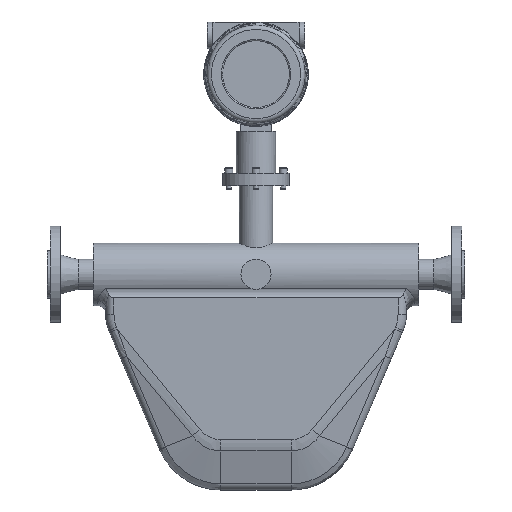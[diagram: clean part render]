
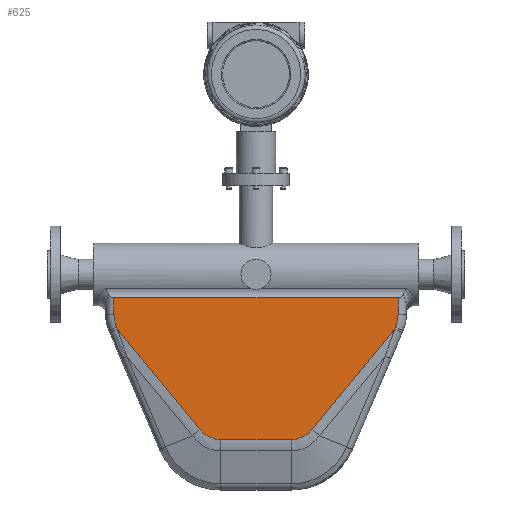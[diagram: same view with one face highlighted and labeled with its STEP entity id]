
A CAD part, top view. The second image highlights one B-rep face of the part: STEP entity #625.
In plain terms, the highlighted planar face has unit normal (0, 0, 1).
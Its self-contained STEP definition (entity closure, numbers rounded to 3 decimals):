
#625=ADVANCED_FACE('',(#4400),#4402,.T.);
#4400=FACE_BOUND('',#4401,.T.);
#4401=EDGE_LOOP('',(#8146,#8147,#8148,#8149,#8150,#8151,#8152,#8153,#8154,#8155,
#8156,#8157));
#4402=PLANE('',#4403);
#4403=AXIS2_PLACEMENT_3D('',#4404,#4405,#4406);
#4404=CARTESIAN_POINT('',(-51.537,-91.438,535.));
#4405=DIRECTION('',(0.,0.,1.));
#4406=DIRECTION('',(1.,0.,-0.));
#8146=ORIENTED_EDGE('',*,*,#9885,.T.);
#8147=ORIENTED_EDGE('',*,*,#9886,.T.);
#8148=ORIENTED_EDGE('',*,*,#9887,.T.);
#8149=ORIENTED_EDGE('',*,*,#9888,.T.);
#8150=ORIENTED_EDGE('',*,*,#9822,.F.);
#8151=ORIENTED_EDGE('',*,*,#9884,.F.);
#8152=ORIENTED_EDGE('',*,*,#9889,.F.);
#8153=ORIENTED_EDGE('',*,*,#9890,.F.);
#8154=ORIENTED_EDGE('',*,*,#9891,.F.);
#8155=ORIENTED_EDGE('',*,*,#9892,.F.);
#8156=ORIENTED_EDGE('',*,*,#9893,.T.);
#8157=ORIENTED_EDGE('',*,*,#9894,.T.);
#9822=EDGE_CURVE('',#10814,#10815,#10816,.T.);
#9884=EDGE_CURVE('',#10925,#10814,#10927,.T.);
#9885=EDGE_CURVE('',#10928,#10929,#10930,.T.);
#9886=EDGE_CURVE('',#10929,#10931,#10932,.T.);
#9887=EDGE_CURVE('',#10931,#10933,#10934,.T.);
#9888=EDGE_CURVE('',#10933,#10815,#10935,.T.);
#9889=EDGE_CURVE('',#10936,#10925,#10937,.T.);
#9890=EDGE_CURVE('',#10938,#10936,#10939,.T.);
#9891=EDGE_CURVE('',#10940,#10938,#10941,.T.);
#9892=EDGE_CURVE('',#10942,#10940,#10943,.T.);
#9893=EDGE_CURVE('',#10942,#10944,#10945,.T.);
#9894=EDGE_CURVE('',#10944,#10928,#10946,.T.);
#10814=VERTEX_POINT('',#13672);
#10815=VERTEX_POINT('',#13673);
#10816=LINE('',#13674,#13675);
#10925=VERTEX_POINT('',#14094);
#10927=LINE('',#14099,#14100);
#10928=VERTEX_POINT('',#14102);
#10929=VERTEX_POINT('',#14103);
#10930=LINE('',#14104,#14105);
#10931=VERTEX_POINT('',#14107);
#10932=LINE('',#14108,#14109);
#10933=VERTEX_POINT('',#14111);
#10934=CIRCLE('',#14112,40.);
#10935=LINE('',#14116,#14117);
#10936=VERTEX_POINT('',#14119);
#10937=CIRCLE('',#14120,40.);
#10938=VERTEX_POINT('',#14124);
#10939=LINE('',#14125,#14126);
#10940=VERTEX_POINT('',#14128);
#10941=LINE('',#14129,#14130);
#10942=VERTEX_POINT('',#14132);
#10943=B_SPLINE_CURVE_WITH_KNOTS('',3,
(#14133,#14134,#14135,#14136,#14137,#14138,#14139,#14140,#14141,#14142,#14143,#14144,
#14145,#14146,#14147,#14148,#14149,#14150),
.UNSPECIFIED.,.F.,.F.,
(4,2,2,2,2,2,2,2,4),
(0.,0.118,0.257,0.395,0.533,0.678,
0.826,0.972,1.),
.UNSPECIFIED.);
#10944=VERTEX_POINT('',#14151);
#10945=LINE('',#14152,#14153);
#10946=B_SPLINE_CURVE_WITH_KNOTS('',3,
(#14155,#14156,#14157,#14158,#14159,#14160,#14161,#14162,#14163,#14164,#14165,#14166,
#14167,#14168,#14169,#14170,#14171,#14172),
.UNSPECIFIED.,.F.,.F.,
(4,2,2,2,2,2,2,2,4),
(0.,0.118,0.257,0.395,0.533,0.678,
0.826,0.972,1.),
.UNSPECIFIED.);
#13672=CARTESIAN_POINT('',(-263.552,58.562,535.));
#13673=CARTESIAN_POINT('',(76.448,58.562,535.));
#13674=CARTESIAN_POINT('',(-263.552,58.562,535.));
#13675=VECTOR('',#13676,1.);
#13676=DIRECTION('',(1.,0.,0.));
#14094=CARTESIAN_POINT('',(-263.552,38.755,535.));
#14099=CARTESIAN_POINT('',(-263.552,38.755,535.));
#14100=VECTOR('',#14101,1.);
#14101=DIRECTION('',(0.,1.,0.));
#14102=CARTESIAN_POINT('',(-26.592,-99.102,535.));
#14103=CARTESIAN_POINT('',(72.29,20.827,535.));
#14104=CARTESIAN_POINT('',(-26.592,-99.102,535.));
#14105=VECTOR('',#14106,1.);
#14106=DIRECTION('',(0.636,0.772,0.));
#14107=CARTESIAN_POINT('',(73.256,23.097,535.));
#14108=CARTESIAN_POINT('',(72.29,20.827,535.));
#14109=VECTOR('',#14110,1.);
#14110=DIRECTION('',(0.391,0.92,0.));
#14111=CARTESIAN_POINT('',(76.448,38.755,535.));
#14112=AXIS2_PLACEMENT_3D('',#14113,#14114,#14115);
#14113=CARTESIAN_POINT('',(36.448,38.755,535.));
#14114=DIRECTION('',(0.,-0.,1.));
#14115=DIRECTION('',(0.92,-0.391,0.));
#14116=CARTESIAN_POINT('',(76.448,38.755,535.));
#14117=VECTOR('',#14118,1.);
#14118=DIRECTION('',(0.,1.,0.));
#14119=CARTESIAN_POINT('',(-260.36,23.097,535.));
#14120=AXIS2_PLACEMENT_3D('',#14121,#14122,#14123);
#14121=CARTESIAN_POINT('',(-223.552,38.755,535.));
#14122=DIRECTION('',(-0.,0.,-1.));
#14123=DIRECTION('',(-0.92,-0.391,0.));
#14124=CARTESIAN_POINT('',(-259.395,20.827,535.));
#14125=CARTESIAN_POINT('',(-259.395,20.827,535.));
#14126=VECTOR('',#14127,1.);
#14127=DIRECTION('',(-0.391,0.92,0.));
#14128=CARTESIAN_POINT('',(-160.513,-99.102,535.));
#14129=CARTESIAN_POINT('',(-160.513,-99.102,535.));
#14130=VECTOR('',#14131,1.);
#14131=DIRECTION('',(-0.636,0.772,0.));
#14132=CARTESIAN_POINT('',(-135.568,-111.281,535.));
#14133=CARTESIAN_POINT('',(-135.568,-111.281,535.));
#14134=CARTESIAN_POINT('',(-136.702,-111.242,535.));
#14135=CARTESIAN_POINT('',(-137.835,-111.203,535.));
#14136=CARTESIAN_POINT('',(-140.264,-110.923,535.));
#14137=CARTESIAN_POINT('',(-141.56,-110.689,535.));
#14138=CARTESIAN_POINT('',(-144.121,-110.059,535.));
#14139=CARTESIAN_POINT('',(-145.403,-109.656,535.));
#14140=CARTESIAN_POINT('',(-147.866,-108.714,535.));
#14141=CARTESIAN_POINT('',(-149.069,-108.164,535.));
#14142=CARTESIAN_POINT('',(-151.442,-106.905,535.));
#14143=CARTESIAN_POINT('',(-152.618,-106.18,535.));
#14144=CARTESIAN_POINT('',(-154.9,-104.576,535.));
#14145=CARTESIAN_POINT('',(-156.02,-103.676,535.));
#14146=CARTESIAN_POINT('',(-158.104,-101.782,535.));
#14147=CARTESIAN_POINT('',(-159.08,-100.776,535.));
#14148=CARTESIAN_POINT('',(-160.172,-99.511,535.));
#14149=CARTESIAN_POINT('',(-160.342,-99.306,535.));
#14150=CARTESIAN_POINT('',(-160.513,-99.102,535.));
#14151=CARTESIAN_POINT('',(-51.537,-111.281,535.));
#14152=CARTESIAN_POINT('',(-135.568,-111.281,535.));
#14153=VECTOR('',#14154,1.);
#14154=DIRECTION('',(1.,0.,0.));
#14155=CARTESIAN_POINT('',(-51.537,-111.281,535.));
#14156=CARTESIAN_POINT('',(-50.403,-111.242,535.));
#14157=CARTESIAN_POINT('',(-49.269,-111.203,535.));
#14158=CARTESIAN_POINT('',(-46.841,-110.923,535.));
#14159=CARTESIAN_POINT('',(-45.544,-110.689,535.));
#14160=CARTESIAN_POINT('',(-42.984,-110.059,535.));
#14161=CARTESIAN_POINT('',(-41.701,-109.656,535.));
#14162=CARTESIAN_POINT('',(-39.239,-108.714,535.));
#14163=CARTESIAN_POINT('',(-38.035,-108.164,535.));
#14164=CARTESIAN_POINT('',(-35.663,-106.905,535.));
#14165=CARTESIAN_POINT('',(-34.487,-106.18,535.));
#14166=CARTESIAN_POINT('',(-32.205,-104.576,535.));
#14167=CARTESIAN_POINT('',(-31.084,-103.676,535.));
#14168=CARTESIAN_POINT('',(-29.001,-101.782,535.));
#14169=CARTESIAN_POINT('',(-28.024,-100.776,535.));
#14170=CARTESIAN_POINT('',(-26.932,-99.511,535.));
#14171=CARTESIAN_POINT('',(-26.762,-99.306,535.));
#14172=CARTESIAN_POINT('',(-26.592,-99.102,535.));
